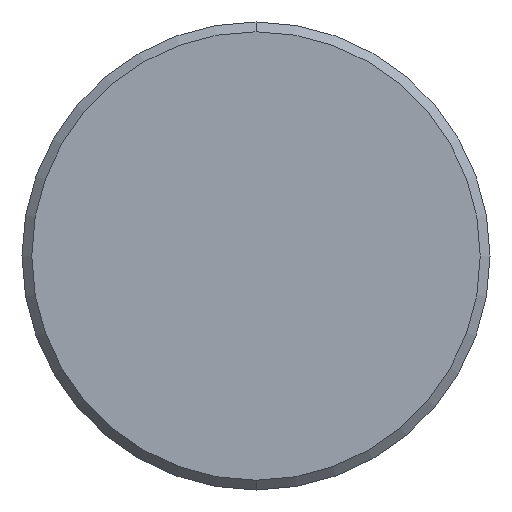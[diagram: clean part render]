
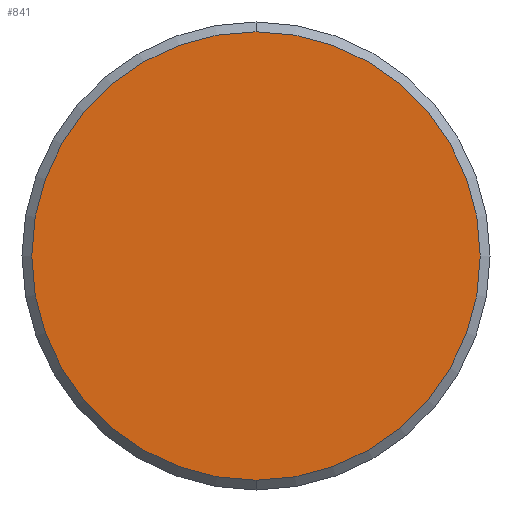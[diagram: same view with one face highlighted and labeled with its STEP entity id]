
A CAD part, front view. The second image highlights one B-rep face of the part: STEP entity #841.
In plain terms, the highlighted planar face has unit normal (0, -1, 0).
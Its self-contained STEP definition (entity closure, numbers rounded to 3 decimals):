
#3 = VERTEX_POINT ( 'NONE', #460 ) ;
#69 = AXIS2_PLACEMENT_3D ( 'NONE', #484, #394, #290 ) ;
#70 = CARTESIAN_POINT ( 'NONE',  ( 0., 0., 0. ) ) ;
#74 = ORIENTED_EDGE ( 'NONE', *, *, #368, .T. ) ;
#123 = CARTESIAN_POINT ( 'NONE',  ( 0., 0., 5.75 ) ) ;
#155 = ORIENTED_EDGE ( 'NONE', *, *, #801, .T. ) ;
#205 = CIRCLE ( 'NONE', #898, 5.75 ) ;
#233 = VERTEX_POINT ( 'NONE', #123 ) ;
#290 = DIRECTION ( 'NONE',  ( 0., 0., -1. ) ) ;
#368 = EDGE_CURVE ( 'NONE', #3, #233, #868, .T. ) ;
#394 = DIRECTION ( 'NONE',  ( 0., -1., 0. ) ) ;
#401 = DIRECTION ( 'NONE',  ( 0., 0., -1. ) ) ;
#421 = DIRECTION ( 'NONE',  ( 0., -1., 0. ) ) ;
#431 = CARTESIAN_POINT ( 'NONE',  ( 0., 0., 0. ) ) ;
#460 = CARTESIAN_POINT ( 'NONE',  ( 0., 0., -5.75 ) ) ;
#484 = CARTESIAN_POINT ( 'NONE',  ( 0., 0., 0. ) ) ;
#575 = PLANE ( 'NONE',  #69 ) ;
#591 = DIRECTION ( 'NONE',  ( 0., 0., -1. ) ) ;
#593 = DIRECTION ( 'NONE',  ( 0., -1., 0. ) ) ;
#733 = EDGE_LOOP ( 'NONE', ( #155, #74 ) ) ;
#801 = EDGE_CURVE ( 'NONE', #233, #3, #205, .T. ) ;
#834 = AXIS2_PLACEMENT_3D ( 'NONE', #70, #593, #591 ) ;
#841 = ADVANCED_FACE ( 'NONE', ( #850 ), #575, .T. ) ;
#850 = FACE_OUTER_BOUND ( 'NONE', #733, .T. ) ;
#868 = CIRCLE ( 'NONE', #834, 5.75 ) ;
#898 = AXIS2_PLACEMENT_3D ( 'NONE', #431, #421, #401 ) ;
